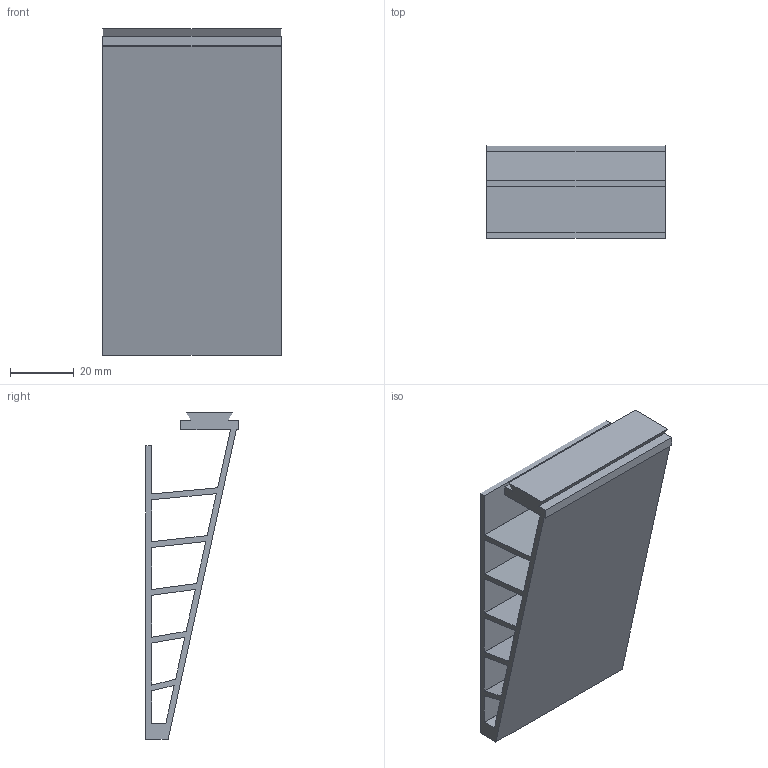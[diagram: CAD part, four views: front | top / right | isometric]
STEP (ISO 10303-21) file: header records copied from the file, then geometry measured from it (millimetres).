
FILE_DESCRIPTION(('Open CASCADE Model'),'2;1');
FILE_NAME('Open CASCADE Shape Model','2026-10-15T21:05:21',('Author'),( 'Open CASCADE'),'Open CASCADE STEP processor 7.9','Open CASCADE 7.9' ,'Unknown');
FILE_SCHEMA(('AUTOMOTIVE_DESIGN { 1 0 10303 214 1 1 1 1 }'));
Length unit declared in the file: millimetre
Products named in the file (1): Open CASCADE STEP translator 7.9 16
Bounding box: 56 x 29 x 102.4 mm (x, y, z)
Volume: 31969.8 mm3; surface area: 32322.8 mm2
Topology: 1 solids, 1 shells, 484 faces, 1446 edges, 964 vertices
Faces by surface type: plane 484
Entity records: 34758 total; most frequent: CARTESIAN_POINT 5787, DIRECTION 5308, LINE 4338, VECTOR 4338, ORIENTED_EDGE 2892, PCURVE 2892, DEFINITIONAL_REPRESENTATION 2892, EDGE_CURVE 1446
